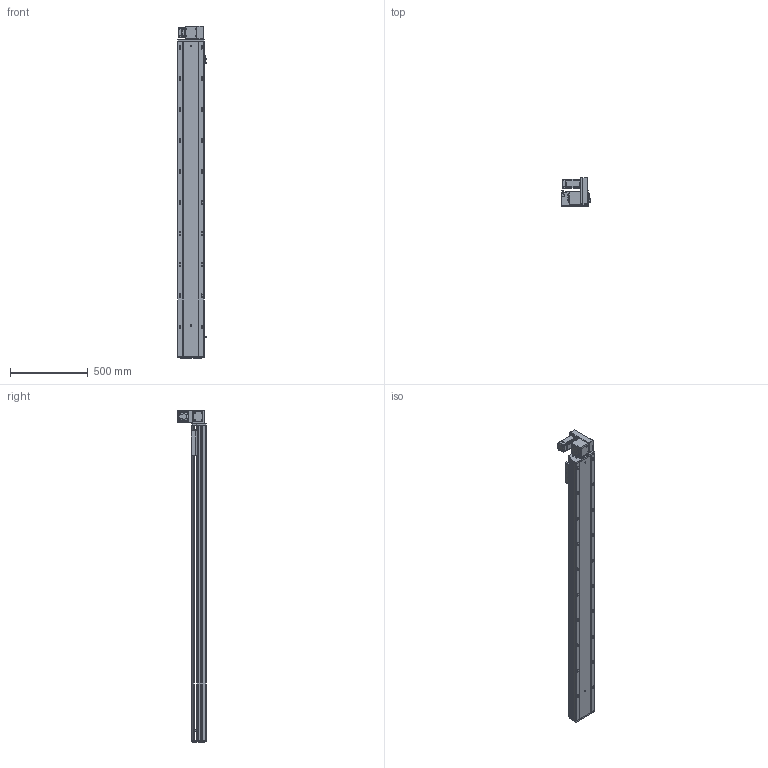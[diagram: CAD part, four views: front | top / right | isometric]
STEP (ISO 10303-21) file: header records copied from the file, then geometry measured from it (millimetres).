
FILE_DESCRIPTION (( 'STEP AP203' ), '1' );
FILE_NAME ('RY170-T-300-UR-P400W.SLDASM_1750.step', '2021-03-01T09:28:42', ( '盈信电脑' ), ( '东莞市道滘镇水果街19号' ), 'SwSTEP 2.0', 'SolidWorks 2012', '' );
FILE_SCHEMA (( 'CONFIG_CONTROL_DESIGN' ));
Length unit declared in the file: millimetre
Products named in the file (18): RY170-T-300肮祭謫倰第菁釱-DR_1750; RY170-T-300-UR-P400W.SLDASM_1750; RY170-T蹟翐M4; 滅袉蝶18-10; 15; RY170-T肮祭湍揤踡輸1; RY120-T主同步轮轴承压盖; RY170-T肮祭謫裔啣; RY170-T肮祭湍揤踡輸2; RY170同步轮电机安装板(400W); RY170翋肮祭謫釱; RY170肮祭謫ヶ裔啣; RY170肮祭謫萇儂欶; RY170-T-300肮祭謫倰第裔啣-DR_1750; RY170外置感应片(200共用）; RY170綴裔啣; 覜茼ん672; RY170肮祭湍臏賑輸
Assembly tree (22 placements, depth 2):
  RY170-T-300-UR-P400W.SLDASM_1750
    RY170-T-300肮祭謫倰第菁釱-DR_1750
    RY170肮祭湍臏賑輸
    RY170-T-300肮祭謫倰第裔啣-DR_1750
    RY170綴裔啣
    覜茼ん672  x3
    RY170外置感应片(200共用）
    RY170肮祭謫ヶ裔啣
    RY170翋肮祭謫釱
    RY170同步轮电机安装板(400W)
    RY170肮祭謫萇儂欶
    RY170-T肮祭湍揤踡輸1  x2
    RY170-T肮祭湍揤踡輸2  x2
    RY120-T主同步轮轴承压盖
    RY170-T肮祭謫裔啣
    RY170-T蹟翐M4
    滅袉蝶18-10  x2
    15
Bounding box: 183.7 x 182 x 2138 mm (x, y, z)
Volume: 10048207.5 mm3; surface area: 3450855.6 mm2
Topology: 22 solids, 22 shells, 2924 faces, 8158 edges, 5207 vertices
Faces by surface type: cylinder 1340, plane 1266, cone 288, bspline 30
Entity records: 88104 total; most frequent: CARTESIAN_POINT 20051, ORIENTED_EDGE 13920, DIRECTION 13644, EDGE_CURVE 6960, AXIS2_PLACEMENT_3D 4830, VERTEX_POINT 4563, VECTOR 3984, LINE 3984
